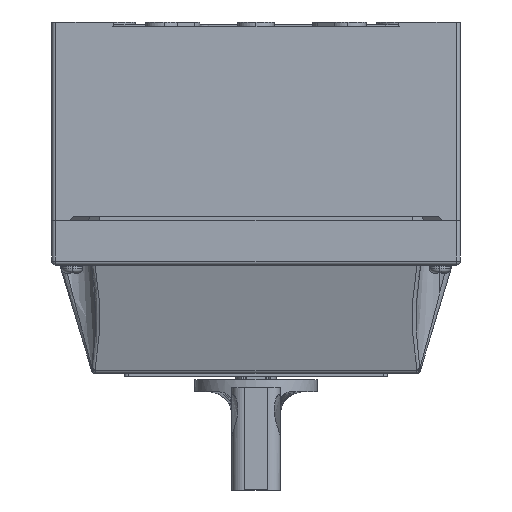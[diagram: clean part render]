
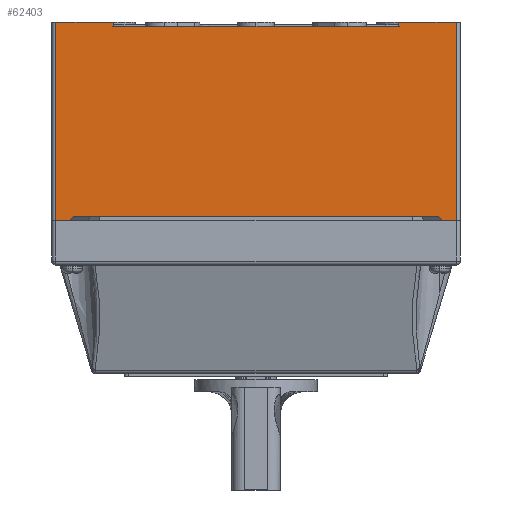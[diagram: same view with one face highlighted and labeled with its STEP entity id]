
A CAD part, left-side view. The second image highlights one B-rep face of the part: STEP entity #62403.
In plain terms, the highlighted planar face has unit normal (-1, 0, 0).
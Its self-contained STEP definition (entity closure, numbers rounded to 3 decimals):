
#603 = DIRECTION ( 'NONE',  ( 0., 0., -1. ) ) ;
#1412 = ORIENTED_EDGE ( 'NONE', *, *, #19852, .T. ) ;
#1465 = FACE_OUTER_BOUND ( 'NONE', #33383, .T. ) ;
#1732 = CARTESIAN_POINT ( 'NONE',  ( -49.902, -49.048, 22.245 ) ) ;
#2402 = PLANE ( 'NONE',  #73232 ) ;
#2570 = DIRECTION ( 'NONE',  ( 0., -0.816, 0.577 ) ) ;
#7418 = EDGE_CURVE ( 'NONE', #41377, #82506, #28393, .T. ) ;
#8032 = VERTEX_POINT ( 'NONE', #11909 ) ;
#8372 = CARTESIAN_POINT ( 'NONE',  ( -49.902, -49.048, 23.245 ) ) ;
#9375 = DIRECTION ( 'NONE',  ( 0., 0., -1. ) ) ;
#9500 = LINE ( 'NONE', #24907, #39564 ) ;
#10303 = DIRECTION ( 'NONE',  ( 0., 0., 1. ) ) ;
#10993 = VECTOR ( 'NONE', #28025, 1000. ) ;
#11687 = LINE ( 'NONE', #68030, #92783 ) ;
#11909 = CARTESIAN_POINT ( 'NONE',  ( -49.902, -34.9, 22.245 ) ) ;
#12630 = CARTESIAN_POINT ( 'NONE',  ( -49.902, 48.952, 23.245 ) ) ;
#12922 = VERTEX_POINT ( 'NONE', #8372 ) ;
#14359 = CARTESIAN_POINT ( 'NONE',  ( -49.902, 45.71, -25.255 ) ) ;
#15647 = EDGE_CURVE ( 'NONE', #21223, #82506, #92008, .T. ) ;
#16423 = VECTOR ( 'NONE', #65279, 1000. ) ;
#18331 = CARTESIAN_POINT ( 'NONE',  ( -49.902, 48.952, -24.255 ) ) ;
#19852 = EDGE_CURVE ( 'NONE', #51015, #8032, #11687, .T. ) ;
#20860 = ORIENTED_EDGE ( 'NONE', *, *, #32063, .F. ) ;
#21223 = VERTEX_POINT ( 'NONE', #23820 ) ;
#23477 = VERTEX_POINT ( 'NONE', #12630 ) ;
#23820 = CARTESIAN_POINT ( 'NONE',  ( -49.902, -49.048, -25.255 ) ) ;
#24408 = CARTESIAN_POINT ( 'NONE',  ( -49.902, -45.805, -25.255 ) ) ;
#24907 = CARTESIAN_POINT ( 'NONE',  ( -49.902, 46.457, -25.783 ) ) ;
#25083 = DIRECTION ( 'NONE',  ( 0., 1., 0. ) ) ;
#26477 = VERTEX_POINT ( 'NONE', #76728 ) ;
#28025 = DIRECTION ( 'NONE',  ( 0., -0.816, -0.577 ) ) ;
#28393 = LINE ( 'NONE', #71498, #10993 ) ;
#29030 = CARTESIAN_POINT ( 'NONE',  ( -49.902, -49.048, -25.255 ) ) ;
#29281 = EDGE_CURVE ( 'NONE', #23477, #35343, #38912, .T. ) ;
#30496 = ORIENTED_EDGE ( 'NONE', *, *, #15647, .F. ) ;
#31060 = VECTOR ( 'NONE', #46072, 1000. ) ;
#32063 = EDGE_CURVE ( 'NONE', #35343, #93886, #78235, .T. ) ;
#32863 = ORIENTED_EDGE ( 'NONE', *, *, #92225, .T. ) ;
#32939 = EDGE_CURVE ( 'NONE', #8032, #93886, #64734, .T. ) ;
#33066 = DIRECTION ( 'NONE',  ( 0., -1., 0. ) ) ;
#33194 = CARTESIAN_POINT ( 'NONE',  ( -49.902, 34.805, 22.245 ) ) ;
#33383 = EDGE_LOOP ( 'NONE', ( #81413, #32863, #43249, #81576, #30496, #79136, #39515, #1412, #53514, #20860, #59285, #90355 ) ) ;
#33581 = CARTESIAN_POINT ( 'NONE',  ( -49.902, 34.805, 23.245 ) ) ;
#35343 = VERTEX_POINT ( 'NONE', #33581 ) ;
#36358 = EDGE_CURVE ( 'NONE', #51015, #12922, #96081, .T. ) ;
#38251 = CARTESIAN_POINT ( 'NONE',  ( -49.902, 44.296, -25.255 ) ) ;
#38912 = LINE ( 'NONE', #51875, #43592 ) ;
#39515 = ORIENTED_EDGE ( 'NONE', *, *, #36358, .F. ) ;
#39564 = VECTOR ( 'NONE', #2570, 1000. ) ;
#39641 = CARTESIAN_POINT ( 'NONE',  ( -49.902, -49.048, -24.255 ) ) ;
#40874 = DIRECTION ( 'NONE',  ( 0., 1., 0. ) ) ;
#41377 = VERTEX_POINT ( 'NONE', #68859 ) ;
#43249 = ORIENTED_EDGE ( 'NONE', *, *, #63897, .F. ) ;
#43592 = VECTOR ( 'NONE', #82266, 1000. ) ;
#43788 = EDGE_CURVE ( 'NONE', #75792, #23477, #95347, .T. ) ;
#46072 = DIRECTION ( 'NONE',  ( 0., 1., 0. ) ) ;
#50055 = CARTESIAN_POINT ( 'NONE',  ( -49.902, -49.048, -24.255 ) ) ;
#51015 = VERTEX_POINT ( 'NONE', #89211 ) ;
#51282 = LINE ( 'NONE', #50055, #16423 ) ;
#51875 = CARTESIAN_POINT ( 'NONE',  ( -49.902, 48.952, 23.245 ) ) ;
#53514 = ORIENTED_EDGE ( 'NONE', *, *, #32939, .T. ) ;
#57625 = DIRECTION ( 'NONE',  ( 0., 1., 0. ) ) ;
#59285 = ORIENTED_EDGE ( 'NONE', *, *, #29281, .F. ) ;
#60776 = VECTOR ( 'NONE', #57625, 1000. ) ;
#62061 = DIRECTION ( 'NONE',  ( 0., -1., 0. ) ) ;
#62403 = ADVANCED_FACE ( 'NONE', ( #1465 ), #2402, .F. ) ;
#63897 = EDGE_CURVE ( 'NONE', #41377, #26477, #70099, .T. ) ;
#64115 = VECTOR ( 'NONE', #10303, 1000. ) ;
#64734 = LINE ( 'NONE', #1732, #65948 ) ;
#65279 = DIRECTION ( 'NONE',  ( 0., 0., 1. ) ) ;
#65948 = VECTOR ( 'NONE', #40874, 1000. ) ;
#67879 = DIRECTION ( 'NONE',  ( 1., 0., 0. ) ) ;
#68030 = CARTESIAN_POINT ( 'NONE',  ( -49.902, -34.9, 23.245 ) ) ;
#68196 = CARTESIAN_POINT ( 'NONE',  ( -49.902, -49.048, -24.255 ) ) ;
#68859 = CARTESIAN_POINT ( 'NONE',  ( -49.902, -44.391, -24.255 ) ) ;
#70099 = LINE ( 'NONE', #39641, #82828 ) ;
#70500 = LINE ( 'NONE', #38251, #31060 ) ;
#71498 = CARTESIAN_POINT ( 'NONE',  ( -49.902, -46.552, -25.783 ) ) ;
#73232 = AXIS2_PLACEMENT_3D ( 'NONE', #68196, #67879, #62061 ) ;
#75792 = VERTEX_POINT ( 'NONE', #93496 ) ;
#76728 = CARTESIAN_POINT ( 'NONE',  ( -49.902, 44.296, -24.255 ) ) ;
#76866 = CARTESIAN_POINT ( 'NONE',  ( -49.902, -34.9, 23.245 ) ) ;
#78235 = LINE ( 'NONE', #82855, #95562 ) ;
#79136 = ORIENTED_EDGE ( 'NONE', *, *, #82957, .T. ) ;
#80603 = VERTEX_POINT ( 'NONE', #14359 ) ;
#81413 = ORIENTED_EDGE ( 'NONE', *, *, #93987, .F. ) ;
#81576 = ORIENTED_EDGE ( 'NONE', *, *, #7418, .T. ) ;
#82266 = DIRECTION ( 'NONE',  ( 0., -1., 0. ) ) ;
#82506 = VERTEX_POINT ( 'NONE', #24408 ) ;
#82828 = VECTOR ( 'NONE', #25083, 1000. ) ;
#82855 = CARTESIAN_POINT ( 'NONE',  ( -49.902, 34.805, 23.245 ) ) ;
#82957 = EDGE_CURVE ( 'NONE', #21223, #12922, #51282, .T. ) ;
#89211 = CARTESIAN_POINT ( 'NONE',  ( -49.902, -34.9, 23.245 ) ) ;
#90355 = ORIENTED_EDGE ( 'NONE', *, *, #43788, .F. ) ;
#92008 = LINE ( 'NONE', #29030, #60776 ) ;
#92225 = EDGE_CURVE ( 'NONE', #80603, #26477, #9500, .T. ) ;
#92783 = VECTOR ( 'NONE', #9375, 1000. ) ;
#93496 = CARTESIAN_POINT ( 'NONE',  ( -49.902, 48.952, -25.255 ) ) ;
#93760 = VECTOR ( 'NONE', #33066, 1000. ) ;
#93886 = VERTEX_POINT ( 'NONE', #33194 ) ;
#93987 = EDGE_CURVE ( 'NONE', #80603, #75792, #70500, .T. ) ;
#95347 = LINE ( 'NONE', #18331, #64115 ) ;
#95562 = VECTOR ( 'NONE', #603, 1000. ) ;
#96081 = LINE ( 'NONE', #76866, #93760 ) ;
